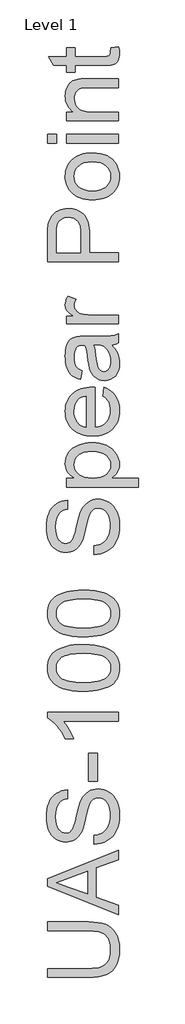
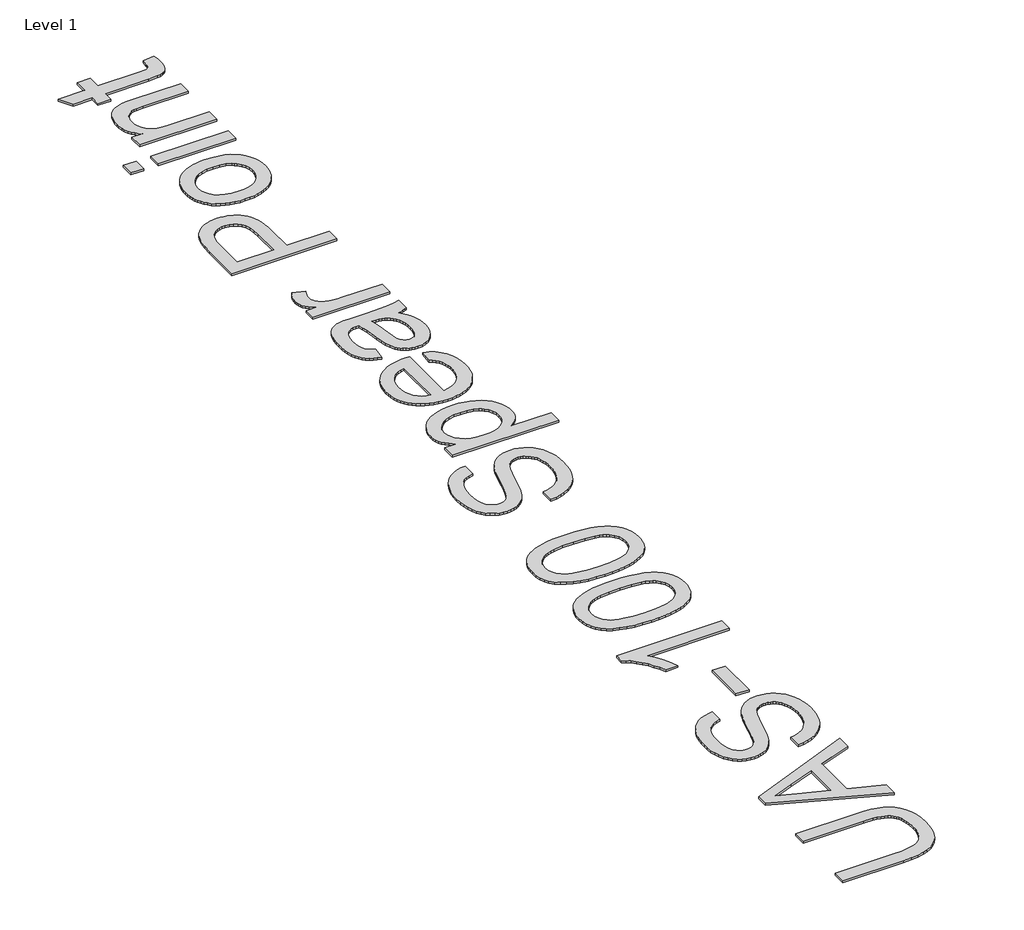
# One storey, part 1 of 3: 1 proxy.
"""IFC4 building model written with IfcOpenShell, lengths in millimetres."""

from ifc_helpers import new_model, si_unit, origin, origin_with_axes, place, context, project, spatial, polyline, outline, extrude, element, save

model = new_model("IFC4")

# Units and contexts
model_context = context("Model", 3, world=origin())
ifc_project = project(units=[si_unit("LENGTHUNIT", "METRE", prefix="MILLI")], contexts=[model_context])

# Site, building, storey
site = spatial("IfcSite", under=ifc_project)
building = spatial("IfcBuilding", under=site)
storey = spatial("IfcBuildingStorey", under=building, Name="Level 1", Elevation=0.0)

# Proxy
placement = place(None, origin())
element("IfcBuildingElementProxy", 1, Name="50\" Arial", ObjectType="50\" Arial", at=placement, inside=storey, context=model_context, shape_type="SweptSolid", body=[
    extrude(outline(polyline([(45720.0677023, -71959.0772977), (45720.0677023, -71800.4486028), (46452.1763075, -71800.4486028), (46542.8281916, -71803.1401786), (46623.6238739, -71811.2149059), (46694.5633543, -71824.6727846), (46755.6466328, -71843.5138149), (46809.1876901, -71869.3645605), (46857.5005067, -71903.8515851), (46900.5850826, -71946.9748887), (46938.4414179, -71998.7344714), (46969.278356, -72059.1884246), (46991.3047403, -72128.3948401), (47004.5205709, -72206.3537177), (47008.9258477, -72293.0650575), (47005.0918046, -72377.6366913), (46993.5896751, -72454.1335979), (46974.4194593, -72522.5557773), (46947.5811572, -72582.9032294), (46913.4717277, -72635.1856361), (46872.48813, -72679.4126794), (46824.630364, -72715.5843594), (46769.8984296, -72743.7006759), (46706.4140332, -72764.7782313), (46632.2988806, -72779.8336281), (46547.5529721, -72788.8668662), (46452.1763075, -72791.8779455), (45720.0677023, -72791.8779455), (45720.0677023, -72633.2492507), (46446.5995174, -72633.2492507), (46523.2900626, -72631.2935014), (46589.1562132, -72625.4262535), (46644.1979691, -72615.6475071), (46688.4153305, -72601.957262), (46725.0033333, -72583.5035089), (46757.1570135, -72559.4342379), (46784.876371, -72529.7494492), (46808.1614058, -72494.4491427), (46826.5957952, -72454.2110534), (46839.7632161, -72409.7129161), (46847.6636687, -72360.9547308), (46850.2971529, -72307.9364976), (46845.0882761, -72220.5086952), (46838.5771801, -72181.8632829), (46829.4616456, -72146.5968632), (46817.7416728, -72114.709436), (46803.4172615, -72086.2010015), (46786.4884119, -72061.0715595), (46766.9551238, -72039.3211101), (46743.7184986, -72020.5139665), (46715.6796375, -72004.2144421), (46682.8385405, -71990.4225369), (46645.1952076, -71979.1382508), (46602.7496389, -71970.3615838), (46555.5018343, -71964.0925359), (46446.5995174, -71959.0772977), (45720.0677023, -71959.0772977)])), origin_with_axes(), (0.0, 0.0, 1.0), 25.4),
    extrude(outline(polyline([(46989.0972609, -71670.6333233), (45720.0677023, -71164.0748935), (45720.0677023, -71028.9926456), (46989.0972609, -70522.4342158), (46989.0972609, -70690.047739), (46592.5255238, -70835.3541021), (46592.5255238, -71358.0232587), (46989.0972609, -71503.0198), (46989.0972609, -71670.6333233)]), holes=[polyline([(46433.896829, -71299.7767848), (46433.896829, -70893.2907543), (46121.9064077, -71007.6149504), (45878.6963971, -71096.5337695), (46094.6421008, -71175.5382953), (46433.896829, -71299.7767848)])]), origin_with_axes(), (0.0, 0.0, 1.0), 25.4),
    extrude(outline(polyline([(46552.8683501, -70412.4475231), (46552.8683501, -70253.8188283), (46599.0414608, -70246.5573829), (46640.896432, -70235.6168052), (46678.4332636, -70220.9970951), (46711.6519558, -70202.6982528), (46741.2205614, -70179.7908131), (46767.8071334, -70151.3453111), (46791.4116718, -70117.3617467), (46812.0341767, -70077.8401199), (46828.7742288, -70034.23272), (46840.7314089, -69987.9918358), (46847.9057169, -69939.1174674), (46850.2971529, -69887.6096148), (46848.4866325, -69842.0464655), (46843.0550714, -69799.2329836), (46834.0024695, -69759.1691689), (46821.3288268, -69721.8550216), (46805.4891939, -69688.2103247), (46786.9386215, -69659.1548612), (46765.6771094, -69634.6886312), (46741.7046577, -69614.8116348), (46716.0572326, -69599.4270525), (46689.7708004, -69588.4380651), (46662.8453609, -69581.8446727), (46635.2809142, -69579.6468753), (46607.8326507, -69581.2928029), (46582.1852256, -69586.2305857), (46558.338639, -69594.4602238), (46536.2928908, -69605.9817172), (46515.9317979, -69622.5959042), (46497.1391773, -69646.1036234), (46479.9150288, -69676.5048747), (46464.2593526, -69713.7996582), (46439.3574359, -69797.5676921), (46403.6892162, -69944.7717129), (46363.6060377, -70096.3906924), (46344.290593, -70151.7229062), (46325.4592446, -70193.4036027), (46300.1894147, -70235.7620341), (46272.092462, -70272.3694007), (46241.1683866, -70303.2257026), (46207.4171885, -70328.3309398), (46171.187417, -70347.7819315), (46132.8276216, -70361.675497), (46092.3378021, -70370.0116363), (46049.7179587, -70372.7903494), (46002.479836, -70369.3532652), (45956.8101855, -70359.0420128), (45912.7090073, -70341.8565921), (45870.1763012, -70317.797003), (45830.9451323, -70287.1343397), (45796.7485655, -70250.1396959), (45767.5866008, -70206.8130718), (45743.4592383, -70157.1544674), (45724.5504345, -70102.8388559), (45711.0441461, -70045.5412109), (45702.9403731, -69985.2615323), (45700.2391154, -69921.9998201), (45703.0662381, -69852.9870432), (45711.5476063, -69788.1568589), (45725.68322, -69727.5092671), (45745.4730792, -69671.0442678), (45770.7429091, -69619.8075092), (45801.3184351, -69574.8446394), (45837.1996572, -69536.1556584), (45878.3865754, -69503.7405662), (45923.6786307, -69477.8510929), (45971.8752642, -69458.7389687), (46022.9764758, -69446.4041935), (46076.9822656, -69440.8467673), (46076.9822656, -69599.4754621), (46026.3651504, -69610.0868543), (45982.3317456, -69628.598699), (45944.8820513, -69655.0109964), (45914.0160674, -69689.3237463), (45889.8887049, -69732.175956), (45872.6548745, -69784.2066326), (45862.3145763, -69845.4157762), (45858.8678102, -69915.8033868), (45862.2758486, -69988.4372044), (45872.4999637, -70050.4983576), (45889.5401555, -70101.9868463), (45913.3964241, -70142.9026706), (45942.0742924, -70174.0784761), (45973.5792834, -70196.3469086), (46007.9113972, -70209.7079681), (46045.0706337, -70214.1616546), (46077.0403572, -70211.0053463), (46106.0280471, -70201.5364215), (46132.0337035, -70185.7548802), (46155.0573264, -70163.6607224), (46176.8610264, -70128.88324), (46198.8970926, -70074.1222599), (46221.1655251, -69999.3777821), (46243.6663239, -69904.6498066), (46286.189348, -69729.7554742), (46305.4176554, -69668.217145), (46323.2904929, -69623.951374), (46350.3805252, -69575.3190538), (46380.8398681, -69533.5221742), (46414.6685216, -69498.5607352), (46451.8664858, -69470.4347367), (46492.2401221, -69448.8149933), (46535.595792, -69433.3723195), (46581.9334955, -69424.1067152), (46631.2532325, -69421.0181804), (46680.8731093, -69424.5714477), (46729.040697, -69435.2312495), (46775.7559956, -69452.9975859), (46821.0190051, -69477.8704568), (46863.0772968, -69509.4141755), (46900.1784417, -69547.1930554), (46932.3224399, -69591.2070963), (46959.5092914, -69641.4562983), (46981.1290348, -69696.4786905), (46996.5717087, -69754.8123017), (47005.837313, -69816.457132), (47008.9258477, -69881.4131814), (47005.5952648, -69962.5574131), (46995.6035159, -70036.8274764), (46978.9506012, -70104.2233715), (46955.6365206, -70164.7450983), (46925.6225463, -70218.76057), (46888.8699508, -70266.6376998), (46845.3787339, -70308.3764879), (46795.1488957, -70343.9769341), (46739.807, -70372.6548024), (46680.9796105, -70393.6258567), (46618.6667272, -70406.8900969), (46552.8683501, -70412.4475231)])), origin_with_axes(), (0.0, 0.0, 1.0), 25.4),
    extrude(outline(polyline([(46612.3541107, -69282.2180725), (46453.7254158, -69282.2180725), (46453.7254158, -68786.5034011), (46612.3541107, -68786.5034011), (46612.3541107, -69282.2180725)])), origin_with_axes(), (0.0, 0.0, 1.0), 25.4),
    extrude(outline(polyline([(46989.0972609, -68052.8456875), (46989.0972609, -68211.4743824), (46000.1464916, -68211.4743824), (46053.7069127, -68277.6987642), (46107.1898784, -68361.7378921), (46153.9342228, -68449.9596125), (46187.27878, -68528.731772), (46037.3250919, -68528.731772), (46005.0455467, -68464.3566382), (45969.5516017, -68404.1447331), (45930.8432568, -68348.0960567), (45888.9205122, -68296.210609), (45845.7197531, -68250.0374983), (45803.1773651, -68211.125833), (45761.2933482, -68179.4756131), (45720.0677023, -68155.0868385), (45720.0677023, -68052.8456875), (46989.0972609, -68052.8456875)])), origin_with_axes(), (0.0, 0.0, 1.0), 25.4),
    extrude(outline(polyline([(46364.8065967, -67676.1025373), (46258.1020773, -67673.1882772), (46161.6797645, -67664.445497), (46075.5396585, -67649.8741966), (45999.6817591, -67629.4743761), (45933.486423, -67603.3331727), (45876.3340069, -67571.5377238), (45828.2245107, -67534.0880295), (45789.1579346, -67490.9840897), (45758.9309579, -67442.0806756), (45737.3402603, -67387.2325581), (45724.3858418, -67326.4397374), (45720.0677023, -67259.7022134), (45722.623731, -67209.5498306), (45730.2918174, -67161.9534766), (45743.0719612, -67116.9131514), (45760.9641626, -67074.428855), (45783.6682819, -67035.5268716), (45810.8841792, -67001.2334856), (45842.6118545, -66971.5486968), (45878.8513079, -66946.4725055), (45919.4573105, -66924.7462609), (45964.2846333, -66905.1113126), (46013.3332764, -66887.5676605), (46066.6032397, -66872.1153048), (46126.7764171, -66859.5094356), (46196.5347024, -66850.5052433), (46275.8780956, -66845.1027279), (46364.8065967, -66843.3018895), (46470.8333812, -66846.1871038), (46566.7715975, -66854.8427467), (46652.6212458, -66869.2688182), (46728.3823259, -66889.4653183), (46794.6067078, -66915.4032012), (46851.8462613, -66947.0534211), (46900.1009863, -66984.4159781), (46939.3708829, -67027.4908721), (46969.80118, -67076.4523778), (46991.5371065, -67131.4747699), (47004.5786624, -67192.5580484), (47008.9258477, -67259.7022134), (47007.0378719, -67304.6263555), (47001.3739445, -67347.0719242), (46991.9340655, -67387.0389196), (46978.7182349, -67424.5273416), (46961.7264528, -67459.5371903), (46940.958719, -67492.0684656), (46916.4150336, -67522.1211675), (46888.0953966, -67549.6952961), (46843.2535509, -67579.3219933), (46792.5347754, -67604.9984642), (46735.9390701, -67626.7247087), (46673.466435, -67644.500727), (46605.1168701, -67658.326519), (46530.8903754, -67668.2020848), (46450.7869509, -67674.1274242), (46364.8065967, -67676.1025373)]), holes=[polyline([(46364.496775, -67517.4738425), (46502.3964637, -67512.8265175), (46614.0194021, -67498.8845423), (46659.97709, -67488.428061), (46699.3655902, -67475.6479171), (46732.1849028, -67460.5441107), (46758.4350279, -67443.1166418), (46798.6247076, -67403.7692898), (46827.3316216, -67360.0844343), (46844.5557701, -67312.0620756), (46850.2971529, -67259.7022134), (46844.5364062, -67207.3423512), (46827.2541662, -67159.3199925), (46798.4504329, -67115.635137), (46758.1252062, -67076.287785), (46731.8121486, -67058.8603161), (46698.9589492, -67043.7565097), (46659.565608, -67030.9763658), (46613.632125, -67020.5198845), (46502.1447336, -67006.5779094), (46364.496775, -67001.9305843), (46230.2471728, -67006.4229985), (46120.5896656, -67019.9002411), (46074.9829477, -67030.0081731), (46035.5242535, -67042.3623122), (46002.213583, -67056.9626584), (45975.0509363, -67073.8092117), (45932.8958254, -67112.4981926), (45916.334889, -67133.9049336), (45902.7850319, -67156.6865083), (45892.2462542, -67180.8429166), (45884.7185558, -67206.3741585), (45878.6963971, -67261.5611434), (45884.0020932, -67313.6499116), (45899.9191815, -67360.8589885), (45926.4476619, -67403.1883741), (45963.5875346, -67440.6380684), (45993.6402365, -67458.646453), (46029.4246393, -67474.2537196), (46070.9407431, -67487.4598683), (46118.1885477, -67498.264899), (46229.8792596, -67512.6716066), (46364.496775, -67517.4738425)])]), origin_with_axes(), (0.0, 0.0, 1.0), 25.4),
    extrude(outline(polyline([(46364.8065967, -66704.5017815), (46258.1020773, -66701.5875214), (46161.6797645, -66692.8447412), (46075.5396585, -66678.2734408), (45999.6817591, -66657.8736202), (45933.486423, -66631.7324169), (45876.3340069, -66599.936968), (45828.2245107, -66562.4872737), (45789.1579346, -66519.3833339), (45758.9309579, -66470.4799198), (45737.3402603, -66415.6318023), (45724.3858418, -66354.8389816), (45720.0677023, -66288.1014576), (45722.623731, -66237.9490748), (45730.2918174, -66190.3527208), (45743.0719612, -66145.3123956), (45760.9641626, -66102.8280992), (45783.6682819, -66063.9261158), (45810.8841792, -66029.6327297), (45842.6118545, -65999.947941), (45878.8513079, -65974.8717496), (45919.4573105, -65953.1455051), (45964.2846333, -65933.5105567), (46013.3332764, -65915.9669047), (46066.6032397, -65900.5145489), (46126.7764171, -65887.9086798), (46196.5347024, -65878.9044875), (46275.8780956, -65873.5019721), (46364.8065967, -65871.7011337), (46470.8333812, -65874.586348), (46566.7715975, -65883.2419909), (46652.6212458, -65897.6680623), (46728.3823259, -65917.8645624), (46794.6067078, -65943.8024453), (46851.8462613, -65975.4526653), (46900.1009863, -66012.8152222), (46939.3708829, -66055.8901162), (46969.80118, -66104.851622), (46991.5371065, -66159.8740141), (47004.5786624, -66220.9572926), (47008.9258477, -66288.1014576), (47007.0378719, -66333.0255997), (47001.3739445, -66375.4711684), (46991.9340655, -66415.4381638), (46978.7182349, -66452.9265858), (46961.7264528, -66487.9364345), (46940.958719, -66520.4677098), (46916.4150336, -66550.5204117), (46888.0953966, -66578.0945403), (46843.2535509, -66607.7212375), (46792.5347754, -66633.3977083), (46735.9390701, -66655.1239529), (46673.466435, -66672.8999712), (46605.1168701, -66686.7257632), (46530.8903754, -66696.6013289), (46450.7869509, -66702.5266684), (46364.8065967, -66704.5017815)]), holes=[polyline([(46364.496775, -66545.8730867), (46502.3964637, -66541.2257616), (46614.0194021, -66527.2837865), (46659.97709, -66516.8273052), (46699.3655902, -66504.0471613), (46732.1849028, -66488.9433549), (46758.4350279, -66471.515886), (46798.6247076, -66432.1685339), (46827.3316216, -66388.4836785), (46844.5557701, -66340.4613197), (46850.2971529, -66288.1014576), (46844.5364062, -66235.7415954), (46827.2541662, -66187.7192366), (46798.4504329, -66144.0343812), (46758.1252062, -66104.6870292), (46731.8121486, -66087.2595603), (46698.9589492, -66072.1557539), (46659.565608, -66059.37561), (46613.632125, -66048.9191287), (46502.1447336, -66034.9771535), (46364.496775, -66030.3298285), (46230.2471728, -66034.8222427), (46120.5896656, -66048.2994853), (46074.9829477, -66058.4074173), (46035.5242535, -66070.7615564), (46002.213583, -66085.3619026), (45975.0509363, -66102.2084558), (45932.8958254, -66140.8974368), (45916.334889, -66162.3041778), (45902.7850319, -66185.0857525), (45892.2462542, -66209.2421608), (45884.7185558, -66234.7734027), (45878.6963971, -66289.9603876), (45884.0020932, -66342.0491558), (45899.9191815, -66389.2582327), (45926.4476619, -66431.5876183), (45963.5875346, -66469.0373126), (45993.6402365, -66487.0456972), (46029.4246393, -66502.6529638), (46070.9407431, -66515.8591124), (46118.1885477, -66526.6641432), (46229.8792596, -66541.0708508), (46364.496775, -66545.8730867)])]), origin_with_axes(), (0.0, 0.0, 1.0), 25.4),
    extrude(outline(polyline([(46552.8683501, -65237.1863544), (46552.8683501, -65078.5576595), (46599.0414608, -65071.2962141), (46640.896432, -65060.3556364), (46678.4332636, -65045.7359264), (46711.6519558, -65027.437084), (46741.2205614, -65004.5296444), (46767.8071334, -64976.0841423), (46791.4116718, -64942.1005779), (46812.0341767, -64902.5789512), (46828.7742288, -64858.9715512), (46840.7314089, -64812.730667), (46847.9057169, -64763.8562986), (46850.2971529, -64712.3484461), (46848.4866325, -64666.7852968), (46843.0550714, -64623.9718148), (46834.0024695, -64583.9080002), (46821.3288268, -64546.5938529), (46805.4891939, -64512.9491559), (46786.9386215, -64483.8936925), (46765.6771094, -64459.4274625), (46741.7046577, -64439.550466), (46716.0572326, -64424.1658837), (46689.7708004, -64413.1768964), (46662.8453609, -64406.583504), (46635.2809142, -64404.3857065), (46607.8326507, -64406.0316341), (46582.1852256, -64410.969417), (46558.338639, -64419.1990551), (46536.2928908, -64430.7205484), (46515.9317979, -64447.3347355), (46497.1391773, -64470.8424546), (46479.9150288, -64501.243706), (46464.2593526, -64538.5384894), (46439.3574359, -64622.3065234), (46403.6892162, -64769.5105441), (46363.6060377, -64921.1295237), (46344.290593, -64976.4617375), (46325.4592446, -65018.142434), (46300.1894147, -65060.5008653), (46272.092462, -65097.108232), (46241.1683866, -65127.9645339), (46207.4171885, -65153.0697711), (46171.187417, -65172.5207628), (46132.8276216, -65186.4143283), (46092.3378021, -65194.7504676), (46049.7179587, -65197.5291806), (46002.479836, -65194.0920965), (45956.8101855, -65183.7808441), (45912.7090073, -65166.5954233), (45870.1763012, -65142.5358343), (45830.9451323, -65111.8731709), (45796.7485655, -65074.8785272), (45767.5866008, -65031.5519031), (45743.4592383, -64981.8932986), (45724.5504345, -64927.5776872), (45711.0441461, -64870.2800422), (45702.9403731, -64810.0003636), (45700.2391154, -64746.7386514), (45703.0662381, -64677.7258745), (45711.5476063, -64612.8956901), (45725.68322, -64552.2480983), (45745.4730792, -64495.783099), (45770.7429091, -64444.5463404), (45801.3184351, -64399.5834706), (45837.1996572, -64360.8944896), (45878.3865754, -64328.4793975), (45923.6786307, -64302.5899242), (45971.8752642, -64283.4778), (46022.9764758, -64271.1430247), (46076.9822656, -64265.5855985), (46076.9822656, -64424.2142934), (46026.3651504, -64434.8256855), (45982.3317456, -64453.3375303), (45944.8820513, -64479.7498276), (45914.0160674, -64514.0625775), (45889.8887049, -64556.9147872), (45872.6548745, -64608.9454639), (45862.3145763, -64670.1546075), (45858.8678102, -64740.542218), (45862.2758486, -64813.1760357), (45872.4999637, -64875.2371889), (45889.5401555, -64926.7256776), (45913.3964241, -64967.6415018), (45942.0742924, -64998.8173073), (45973.5792834, -65021.0857398), (46007.9113972, -65034.4467993), (46045.0706337, -65038.9004858), (46077.0403572, -65035.7441776), (46106.0280471, -65026.2752528), (46132.0337035, -65010.4937115), (46155.0573264, -64988.3995537), (46176.8610264, -64953.6220713), (46198.8970926, -64898.8610912), (46221.1655251, -64824.1166134), (46243.6663239, -64729.3886379), (46286.189348, -64554.4943054), (46305.4176554, -64492.9559763), (46323.2904929, -64448.6902053), (46350.3805252, -64400.0578851), (46380.8398681, -64358.2610055), (46414.6685216, -64323.2995664), (46451.8664858, -64295.173568), (46492.2401221, -64273.5538246), (46535.595792, -64258.1111508), (46581.9334955, -64248.8455465), (46631.2532325, -64245.7570117), (46680.8731093, -64249.310279), (46729.040697, -64259.9700808), (46775.7559956, -64277.7364171), (46821.0190051, -64302.6092881), (46863.0772968, -64334.1530068), (46900.1784417, -64371.9318866), (46932.3224399, -64415.9459276), (46959.5092914, -64466.1951296), (46981.1290348, -64521.2175217), (46996.5717087, -64579.551133), (47005.837313, -64641.1959633), (47008.9258477, -64706.1520127), (47005.5952648, -64787.2962443), (46995.6035159, -64861.5663077), (46978.9506012, -64928.9622028), (46955.6365206, -64989.4839295), (46925.6225463, -65043.4994012), (46888.8699508, -65091.3765311), (46845.3787339, -65133.1153192), (46795.1488957, -65168.7157654), (46739.807, -65197.3936337), (46680.9796105, -65218.3646879), (46618.6667272, -65231.6289282), (46552.8683501, -65237.1863544)])), origin_with_axes(), (0.0, 0.0, 1.0), 25.4),
    extrude(outline(polyline([(47346.0118242, -64027.6425563), (46057.1536788, -64027.6425563), (46057.1536788, -63869.0138615), (46212.6841569, -63869.0138615), (46171.584376, -63843.9183062), (46135.964566, -63817.2736427), (46105.8247267, -63789.0798707), (46081.1648582, -63759.3369904), (46061.9849604, -63727.1929922), (46048.2850335, -63691.7958665), (46040.0650773, -63653.1456132), (46037.3250919, -63611.2422324), (46041.1591351, -63555.9197005), (46052.6612646, -63503.9664793), (46071.8314804, -63455.3825687), (46098.6697825, -63410.1679688), (46132.4790722, -63369.3102361), (46172.5622507, -63333.7969273), (46218.919318, -63303.6280422), (46271.5502741, -63278.8035809), (46328.6542806, -63259.4203627), (46388.430499, -63245.5752068), (46450.8789292, -63237.2681133), (46515.9995714, -63234.4990822), (46585.6223097, -63237.6263446), (46651.662735, -63247.0081321), (46714.1208472, -63262.6444445), (46772.9966463, -63284.5352818), (46826.750706, -63312.3805044), (46873.8435998, -63345.8799724), (46914.2753277, -63385.0336859), (46948.0458897, -63429.8416448), (46974.6808713, -63478.1060518), (46993.7058582, -63527.6291093), (47005.1208504, -63578.4108173), (47008.9258477, -63630.4511759), (47006.3795009, -63667.8911883), (46998.7404603, -63703.3754514), (46986.0087261, -63736.9039652), (46968.1842982, -63768.4767297), (46946.4677355, -63797.7064678), (46922.0595971, -63824.2059025), (46894.959883, -63847.9750337), (46865.168593, -63869.0138615), (47346.0118242, -63869.0138615), (47346.0118242, -64027.6425563)]), holes=[polyline([(46530.5611899, -63869.0138615), (46607.0096869, -63864.7247677), (46672.7693362, -63851.8574865), (46727.840138, -63830.4120178), (46751.367221, -63816.4724632), (46772.2220922, -63800.3883617), (46806.3799312, -63764.2457275), (46830.7783877, -63724.4433249), (46845.4174616, -63680.9811538), (46850.2971529, -63633.8592143), (46845.2431869, -63586.0595398), (46830.081289, -63541.8034507), (46804.811459, -63501.0909469), (46769.4336971, -63463.9220285), (46747.8284767, -63447.3296258), (46723.4445431, -63432.9495435), (46666.3405366, -63410.8263399), (46598.1216777, -63397.5524177), (46518.7879664, -63393.127777), (46442.9978405, -63397.4459165), (46377.3543743, -63410.4003351), (46321.8575677, -63431.9910327), (46297.9141618, -63446.0249861), (46276.5074208, -63462.2180093), (46241.2652059, -63498.4477808), (46216.0921953, -63538.0468629), (46200.9883889, -63581.0152557), (46195.9537867, -63627.3529592), (46201.3078925, -63673.5454337), (46217.3702097, -63717.0076048), (46244.1407383, -63757.7394725), (46281.6194784, -63795.7410366), (46304.2485627, -63812.9143549), (46329.3029697, -63827.7978975), (46386.6877521, -63850.6956553), (46453.7738255, -63864.4343099), (46530.5611899, -63869.0138615)])]), origin_with_axes(), (0.0, 0.0, 1.0), 25.4),
    extrude(outline(polyline([(46711.4970449, -62403.5573643), (46731.3256318, -62248.0268862), (46793.6191512, -62271.8734728), (46848.5156783, -62304.0658807), (46896.015213, -62344.6041098), (46936.1177554, -62393.4881601), (46967.9712958, -62450.2145714), (46990.7238246, -62514.2798835), (47004.375342, -62585.6840964), (47008.9258477, -62664.4272101), (47006.962837, -62714.9813929), (47001.0738048, -62762.8536818), (46991.2587511, -62808.0440769), (46977.517676, -62850.5525781), (46959.8505794, -62890.3791856), (46938.2574613, -62927.5238992), (46912.7383217, -62961.9867189), (46883.2931607, -62993.7676449), (46850.3044143, -63022.3051252), (46814.1545188, -63047.0376082), (46774.843474, -63067.9650938), (46732.3712799, -63085.087582), (46686.7379367, -63098.4050728), (46637.9434442, -63107.9175663), (46585.9878025, -63113.6250624), (46530.8710116, -63115.527561), (46473.8783472, -63113.6056985), (46420.1678562, -63107.8401109), (46369.7395386, -63098.2307981), (46322.5933942, -63084.7777603), (46278.7294231, -63067.4809974), (46238.1476254, -63046.3405095), (46200.8480009, -63021.3562964), (46166.8305498, -62992.5283582), (46136.4777081, -62960.6360901), (46110.171912, -62926.4588872), (46087.9131614, -62889.9967494), (46069.7014564, -62851.2496769), (46055.5367969, -62810.2176695), (46045.419183, -62766.9007273), (46039.3486147, -62721.2988504), (46037.3250919, -62673.4120385), (46039.3437737, -62627.0912785), (46045.3998192, -62582.9344291), (46055.4932283, -62540.9414905), (46069.624001, -62501.1124625), (46087.7921373, -62463.4473454), (46109.9976373, -62427.9461389), (46136.2405009, -62394.6088431), (46166.5207281, -62363.4354581), (46200.4607238, -62335.2247428), (46237.6828929, -62310.7754562), (46278.1872352, -62290.0875983), (46321.9737508, -62273.1611692), (46369.0424398, -62259.9961687), (46419.3933021, -62250.5925969), (46473.0263377, -62244.9504538), (46529.9415466, -62243.0697395), (46572.696937, -62243.9992045), (46572.696937, -62956.8988662), (46635.9973768, -62947.7107173), (46691.4360918, -62929.4409207), (46739.013082, -62902.0894765), (46778.7283472, -62865.6563845), (46810.0396997, -62822.1554857), (46832.4049515, -62773.6006209), (46845.8241025, -62719.9917902), (46850.2971529, -62661.3289934), (46848.2252205, -62617.4504995), (46842.0094232, -62576.9025885), (46831.6497612, -62539.6852604), (46817.1462343, -62505.7985153), (46798.1115654, -62475.2423531), (46774.1584776, -62448.0167739), (46745.2869708, -62424.1217777), (46711.4970449, -62403.5573643)]), holes=[polyline([(46414.0682421, -62956.8988662), (46414.0682421, -62401.6984343), (46369.1828277, -62409.850617), (46330.2614805, -62423.1535849), (46297.3042004, -62441.6073381), (46270.3109874, -62465.2118766), (46237.7797121, -62508.4707272), (46214.5430869, -62557.693645), (46200.6011118, -62612.8806298), (46195.9537867, -62674.0316819), (46199.6619648, -62729.8092643), (46210.7864992, -62780.9588856), (46229.3273897, -62827.4805457), (46255.2846365, -62869.3742446), (46287.4576805, -62904.5293221), (46324.6459627, -62930.8351183), (46366.8494833, -62948.291633), (46414.0682421, -62956.8988662)])]), origin_with_axes(), (0.0, 0.0, 1.0), 25.4),
    extrude(outline(polyline([(46870.1257398, -61489.5834391), (46905.4260462, -61527.1977261), (46935.110835, -61565.373565), (46959.1801059, -61604.1109556), (46977.6338591, -61643.409898), (46991.3241041, -61683.7157608), (47001.1028506, -61725.4739127), (47006.9700984, -61768.6843537), (47008.9258477, -61813.3470838), (47004.2204311, -61883.9767425), (46990.1041813, -61945.9120307), (46966.5770983, -61999.1529482), (46951.2844943, -62022.513018), (46933.639182, -62043.6994951), (46893.3817288, -62078.8739365), (46847.896035, -62103.9985376), (46797.1821004, -62119.0732982), (46741.2399252, -62124.0982184), (46707.6049102, -62122.2005606), (46675.4802758, -62116.5075875), (46644.8660221, -62107.0192988), (46615.762149, -62093.7356948), (46588.8076638, -62077.3635559), (46564.6415735, -62058.609663), (46543.2638783, -62037.4740159), (46524.6745782, -62013.9566148), (46494.4669654, -61961.4805695), (46472.6245377, -61902.8855463), (46460.4640371, -61845.8009037), (46448.7682691, -61765.6345467), (46423.6727139, -61603.4429026), (46409.4983725, -61540.8201977), (46394.2396553, -61490.5129041), (46358.9199849, -61489.5834391), (46320.4633702, -61492.3137425), (46288.1257334, -61500.5046529), (46261.9070747, -61514.1561702), (46241.8073938, -61533.2682945), (46221.7464407, -61566.30303), (46207.4171885, -61606.5411193), (46198.8196372, -61653.9825625), (46195.9537867, -61708.6273595), (46197.8611264, -61759.4381133), (46203.5831454, -61803.1229687), (46213.1198436, -61839.6819257), (46226.4712212, -61869.1149843), (46244.6829262, -61893.3004384), (46268.8006068, -61914.1165818), (46298.824263, -61931.5634146), (46334.7538947, -61945.6409367), (46314.9253079, -62104.2696315), (46269.2266116, -62092.1962683), (46228.1752404, -62076.7342306), (46191.7711942, -62057.8835184), (46160.0144731, -62035.6441317), (46132.2660698, -62009.0575597), (46107.8869772, -61977.1652916), (46086.8771952, -61939.9673274), (46069.2367239, -61897.4636671), (46055.2753849, -61850.5160022), (46045.3029999, -61799.9860243), (46039.3195689, -61745.8737333), (46037.3250919, -61688.1791293), (46039.0872027, -61631.7819035), (46044.3735349, -61580.9421039), (46053.1840886, -61535.6597305), (46065.5188638, -61495.9347833), (46080.516169, -61461.4380768), (46097.3143127, -61431.8404254), (46115.9132948, -61407.1418292), (46136.3131153, -61387.3422881), (46159.0172346, -61371.2896528), (46184.5291127, -61357.8317741), (46212.8487497, -61346.9686518), (46243.9761455, -61338.700286), (46298.814581, -61332.8911297), (46382.7762535, -61330.9547442), (46580.132657, -61330.9547442), (46752.0449559, -61328.9409034), (46855.7190321, -61322.8993808), (46923.8410717, -61310.9712465), (46989.0972609, -61291.2975705), (46989.0972609, -61449.9262654), (46962.6075081, -61464.0231513), (46933.9490037, -61475.3316423), (46903.1217476, -61483.8517382), (46870.1257398, -61489.5834391)]), holes=[polyline([(46552.8683501, -61489.5834391), (46566.5973228, -61537.5283424), (46579.2806474, -61596.1620934), (46601.5103522, -61745.4961381), (46613.6708528, -61827.7925191), (46627.2255508, -61881.9725836), (46644.8079306, -61917.4858925), (46669.0514762, -61943.7820067), (46698.0972577, -61960.0476443), (46730.0863451, -61965.4695235), (46754.7365317, -61962.5165358), (46777.2566943, -61953.6575724), (46797.6468329, -61938.8926335), (46815.9069476, -61918.2217189), (46830.9526624, -61891.8384674), (46841.6996016, -61859.9365173), (46848.1477651, -61822.5158688), (46850.2971529, -61779.5765218), (46847.9250807, -61735.7367555), (46840.8088643, -61694.3755627), (46828.9485035, -61655.4929431), (46812.3439984, -61619.0888969), (46792.3701826, -61586.2478), (46770.4018899, -61558.054028), (46746.4391201, -61534.5075812), (46720.4818733, -61515.6084593), (46697.2452481, -61504.6291539), (46669.0514762, -61496.7867929), (46635.9005576, -61492.0813763), (46597.7924922, -61490.5129041), (46552.8683501, -61489.5834391)])]), origin_with_axes(), (0.0, 0.0, 1.0), 25.4),
    extrude(outline(polyline([(46989.0972609, -61112.8402888), (46057.1536788, -61112.8402888), (46057.1536788, -60974.0401809), (46195.0243217, -60974.0401809), (46150.9521892, -60947.8989775), (46115.090331, -60922.7646946), (46087.438747, -60898.637332), (46067.9974372, -60875.5168899), (46054.5782861, -60852.3577201), (46044.9931782, -60828.1141745), (46039.2421135, -60802.786253), (46037.3250919, -60776.3739557), (46040.3845809, -60737.0266036), (46049.5630479, -60697.3694299), (46064.8604928, -60657.4024346), (46086.2769157, -60617.1256175), (46228.485062, -60670.105123), (46214.2526291, -60697.9890733), (46204.0866056, -60725.8730235), (46197.9869914, -60753.7569738), (46195.9537867, -60781.6409241), (46197.909536, -60805.9522432), (46203.7767839, -60829.0049118), (46213.5555303, -60850.7989299), (46227.2457754, -60871.3342974), (46244.4021503, -60889.8364602), (46264.5792866, -60905.5308642), (46287.7771841, -60918.4175093), (46313.9958429, -60928.4963954), (46357.2934212, -60939.7467948), (46402.6048404, -60947.7827944), (46449.9301004, -60952.6043941), (46499.2692013, -60954.211594), (46989.0972609, -60954.211594), (46989.0972609, -61112.8402888)])), origin_with_axes(), (0.0, 0.0, 1.0), 25.4),
    extrude(outline(polyline([(46989.0972609, -60002.4394251), (45720.0677023, -60002.4394251), (45720.0677023, -59532.1301306), (45723.0884635, -59422.6081704), (45732.1507474, -59342.5192688), (45741.6680818, -59298.3793629), (45754.7290015, -59257.9766808), (45771.3335066, -59221.3112225), (45791.4815971, -59188.3829882), (45815.5895958, -59158.8434284), (45844.0738255, -59132.3439937), (45876.9342863, -59108.8846842), (45914.1709783, -59088.4654998), (45954.5542965, -59071.9287682), (45996.8546363, -59060.116817), (46041.0719977, -59053.0296463), (46087.2063807, -59050.6672561), (46126.9361689, -59052.2623536), (46165.1071668, -59057.0476461), (46201.7193744, -59065.0231336), (46236.7727917, -59076.1888161), (46270.2674188, -59090.5446936), (46302.2032556, -59108.0907662), (46332.5803021, -59128.8270337), (46361.3985583, -59152.7534962), (46387.6849906, -59180.8431874), (46410.4665652, -59214.069141), (46429.7432822, -59252.431357), (46445.5151416, -59295.9298353), (46457.7821433, -59344.564576), (46466.5442874, -59398.335579), (46471.8015739, -59457.2428444), (46473.5540027, -59521.2863722), (46473.5540027, -59843.8107302), (46989.0972609, -59843.8107302), (46989.0972609, -60002.4394251)]), holes=[polyline([(46314.9253079, -59843.8107302), (46314.9253079, -59511.9917221), (46311.2849032, -59435.698136), (46300.3636894, -59371.3326841), (46282.1616663, -59318.8953665), (46256.678834, -59278.3861832), (46224.5929273, -59248.1592066), (46186.5816812, -59226.568509), (46142.6450957, -59213.6140904), (46092.7831708, -59209.2959509), (46055.7594813, -59211.8422978), (46021.5241868, -59219.4813383), (45990.0772873, -59232.2130725), (45961.4187829, -59250.0375005), (45936.4781385, -59272.0057932), (45916.1848191, -59297.169122), (45900.5388248, -59325.5274867), (45889.5401555, -59357.0808873), (45881.4073367, -59418.2706671), (45878.6963971, -59515.7095821), (45878.6963971, -59843.8107302), (46314.9253079, -59843.8107302)])]), origin_with_axes(), (0.0, 0.0, 1.0), 25.4),
    extrude(outline(polyline([(46523.1254698, -58892.0385613), (46460.6915624, -58889.8940144), (46402.4305657, -58883.4603738), (46348.3424795, -58872.7376394), (46298.427304, -58857.7258114), (46252.685039, -58838.4248895), (46211.1156847, -58814.834874), (46173.719241, -58786.9557647), (46140.4957079, -58754.7875616), (46116.3150948, -58725.3448211), (46095.3585634, -58694.3336084), (46077.6261138, -58661.7539234), (46063.1177459, -58627.6057663), (46051.8334598, -58591.8891369), (46043.7732554, -58554.6040354), (46038.9371328, -58515.7504616), (46037.3250919, -58475.3284157), (46039.2881026, -58430.5228772), (46045.1771349, -58387.8134759), (46054.9921885, -58347.2002119), (46068.7332637, -58308.6830851), (46086.4003603, -58272.2620956), (46107.9934784, -58237.9372433), (46133.5126179, -58205.7085282), (46162.9577789, -58175.5759504), (46195.8642289, -58148.3092229), (46231.7672354, -58124.6780592), (46270.6667983, -58104.6824591), (46312.5629176, -58088.3224227), (46357.4555935, -58075.5979499), (46405.3448257, -58066.5090407), (46456.2306145, -58061.0556953), (46510.1129597, -58059.2379134), (46595.023461, -58062.4523132), (46670.3682183, -58072.0955127), (46736.1472315, -58088.1675118), (46792.3605007, -58110.6683106), (46840.9153655, -58139.3171331), (46883.7191655, -58173.8332035), (46920.7719008, -58214.2165217), (46952.0735714, -58260.4670878), (46976.9464423, -58310.7840633), (46994.7127786, -58363.3666098), (47005.3725805, -58418.2147273), (47008.9258477, -58475.3284157), (47006.9700984, -58520.8407348), (47001.1028506, -58564.1213698), (46991.3241041, -58605.1703205), (46977.6338591, -58643.9875871), (46960.0321155, -58680.5731694), (46938.5188733, -58714.9270675), (46913.0941326, -58747.0492813), (46883.7578932, -58776.939811), (46850.7425216, -58803.9160806), (46814.2803838, -58827.2955143), (46774.37148, -58847.0781119), (46731.0158101, -58863.2638737), (46684.2133742, -58875.8527995), (46633.9641721, -58884.8448894), (46580.268204, -58890.2401433), (46523.1254698, -58892.0385613)]), holes=[polyline([(46522.8156482, -58733.4098664), (46599.7579234, -58728.820633), (46666.3792643, -58715.0529325), (46722.6796708, -58692.1067651), (46746.9595237, -58677.1917563), (46768.659143, -58659.9821307), (46804.3757723, -58620.9058727), (46829.8876504, -58577.1048341), (46845.1947773, -58528.5790151), (46850.2971529, -58475.3284157), (46845.1657315, -58422.3489102), (46829.7714673, -58374.0167297), (46804.1143603, -58330.3318743), (46768.1944105, -58291.2943439), (46746.322937, -58274.0847184), (46721.7598877, -58259.1697096), (46664.559062, -58236.2235422), (46596.5919332, -58222.4558417), (46517.8585014, -58217.8666083), (46443.3560718, -58222.4848875), (46378.4774778, -58236.3397253), (46323.2227195, -58259.4311216), (46299.2042786, -58274.4405292), (46277.5917967, -58291.7590764), (46241.8751673, -58330.9418357), (46216.3632892, -58374.5976454), (46201.0561624, -58422.7265053), (46195.9537867, -58475.3284157), (46201.0367985, -58528.5790151), (46216.2858338, -58577.1048341), (46241.7008926, -58620.9058727), (46277.281975, -58659.9821307), (46298.9089798, -58677.1917563), (46323.1259002, -58692.1067651), (46379.3294874, -58715.0529325), (46445.8927368, -58728.820633), (46522.8156482, -58733.4098664)])]), origin_with_axes(), (0.0, 0.0, 1.0), 25.4),
    extrude(outline(polyline([(45878.6963971, -57880.7806317), (45720.0677023, -57880.7806317), (45720.0677023, -57722.1519369), (45878.6963971, -57722.1519369), (45878.6963971, -57880.7806317)])), origin_with_axes(), (0.0, 0.0, 1.0), 25.4),
    extrude(outline(polyline([(46989.0972609, -57880.7806317), (46057.1536788, -57880.7806317), (46057.1536788, -57722.1519369), (46989.0972609, -57722.1519369), (46989.0972609, -57880.7806317)])), origin_with_axes(), (0.0, 0.0, 1.0), 25.4),
    extrude(outline(polyline([(46989.0972609, -57484.2088947), (46057.1536788, -57484.2088947), (46057.1536788, -57325.5801998), (46187.27878, -57325.5801998), (46152.1333843, -57299.4099507), (46121.6740415, -57270.4706704), (46095.9007513, -57238.7623589), (46074.8135139, -57204.2850162), (46058.4123293, -57167.0386424), (46046.6971974, -57127.0232374), (46039.6681183, -57084.2388012), (46037.3250919, -57038.6853338), (46039.2130677, -56998.7667481), (46044.8769951, -56960.49409), (46054.3168741, -56923.8673594), (46067.5327047, -56888.8865566), (46083.8177062, -56856.8781053), (46102.4650979, -56829.1684298), (46123.4748799, -56805.7575298), (46146.8470521, -56786.6454056), (46172.5525688, -56770.9510017), (46200.5623841, -56757.7932626), (46263.4949107, -56739.0877793), (46323.67777, -56732.8138905), (46416.8566372, -56730.7225942), (46989.0972609, -56730.7225942), (46989.0972609, -56889.3512891), (46438.2343324, -56889.3512891), (46356.2090453, -56893.9211587), (46324.084411, -56899.6334957), (46297.885116, -56907.6307676), (46275.820004, -56918.5229356), (46256.0979183, -56932.9199614), (46238.7188591, -56950.8218447), (46223.6828262, -56972.2285857), (46211.5513714, -56996.4043578), (46202.8860466, -57022.6133347), (46197.6868517, -57050.8555163), (46195.9537867, -57081.1309025), (46199.8459215, -57129.2984902), (46211.5223256, -57174.0386757), (46230.9829993, -57215.351459), (46258.2279423, -57253.23684), (46275.5440691, -57270.192315), (46296.3553715, -57284.8870599), (46320.6618497, -57297.3210749), (46348.4635036, -57307.4943599), (46414.5523385, -57321.0587399), (46494.6218762, -57325.5801998), (46989.0972609, -57325.5801998), (46989.0972609, -57484.2088947)])), origin_with_axes(), (0.0, 0.0, 1.0), 25.4),
    extrude(outline(polyline([(46856.803408, -56175.5221623), (46993.7445859, -56155.6935755), (47005.1305323, -56218.509919), (47008.9258477, -56274.3552749), (47007.2799201, -56314.8450944), (47002.3421373, -56350.4939502), (46994.1124992, -56381.3018425), (46982.5910058, -56407.2687712), (46968.3973006, -56429.0724712), (46952.1510268, -56447.3906774), (46933.8521844, -56462.2233898), (46913.5007735, -56473.5706085), (46886.2171027, -56481.9745213), (46847.1214808, -56487.9773161), (46733.4943835, -56492.779552), (46215.7823736, -56492.779552), (46215.7823736, -56611.7510731), (46057.1536788, -56611.7510731), (46057.1536788, -56492.779552), (45830.6740383, -56492.779552), (45737.4177158, -56334.1508572), (46057.1536788, -56334.1508572), (46057.1536788, -56175.5221623), (46215.7823736, -56175.5221623), (46215.7823736, -56334.1508572), (46728.8470584, -56334.1508572), (46781.0520098, -56332.0595609), (46810.6399792, -56325.7856721), (46827.0218, -56314.8257305), (46839.6083053, -56298.676276), (46847.624941, -56275.7882002), (46850.2971529, -56244.6123947), (46856.803408, -56175.5221623)])), origin_with_axes(), (0.0, 0.0, 1.0), 25.4),
])

save(model, "model.ifc")
